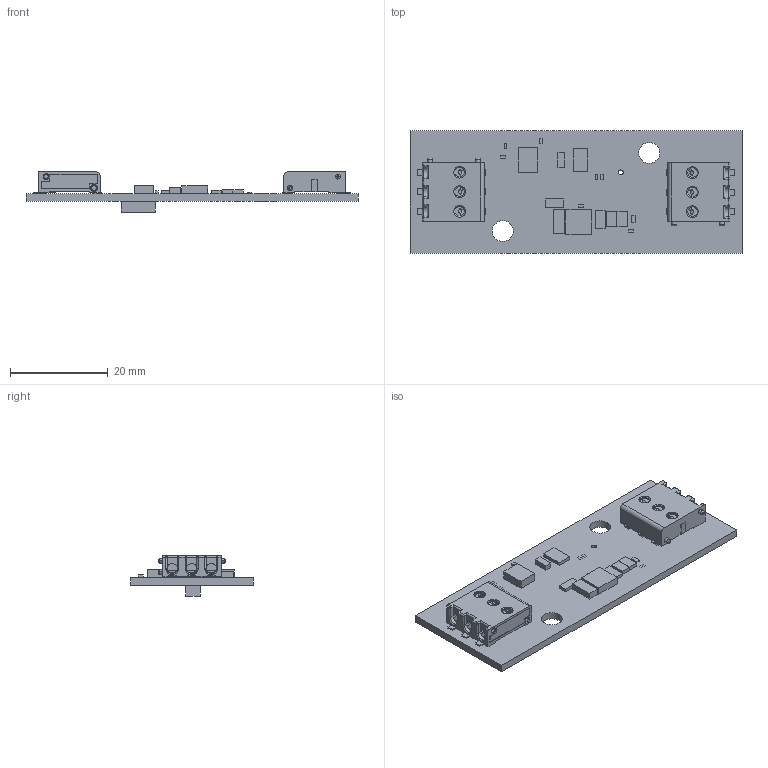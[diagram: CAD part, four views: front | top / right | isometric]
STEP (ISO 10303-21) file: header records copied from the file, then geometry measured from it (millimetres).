
FILE_DESCRIPTION (( 'STEP AP203' ), '1' );
FILE_NAME ('24.030.003.02 A 070716 DB ASSEMBLY.STEP', '2016-08-05T17:48:56', ( 'Rob' ), ( '' ), 'SwSTEP 2.0', 'SolidWorks 2015', '' );
FILE_SCHEMA (( 'CONFIG_CONTROL_DESIGN' ));
Length unit declared in the file: millimetre
Products named in the file (3): 22_030_003_02_reva_070716; CONNECTOR TE 3 c-2834006-3-1-3d; 24.030.003.02 A 070716 DB ASSEMBLY
Assembly tree (3 placements, depth 2):
  24.030.003.02 A 070716 DB ASSEMBLY
    22_030_003_02_reva_070716
    CONNECTOR TE 3 c-2834006-3-1-3d  x2
Bounding box: 68 x 25 x 8.27 mm (x, y, z)
Volume: 3897.2 mm3; surface area: 6087.5 mm2
Topology: 21 solids, 41 shells, 1230 faces, 3508 edges, 2308 vertices
Faces by surface type: plane 816, cylinder 346, cone 36, bspline 28, torus 4
Entity records: 23354 total; most frequent: CARTESIAN_POINT 5849, ORIENTED_EDGE 3754, DIRECTION 3314, EDGE_CURVE 1877, LINE 1424, VECTOR 1424, VERTEX_POINT 1236, AXIS2_PLACEMENT_3D 945
